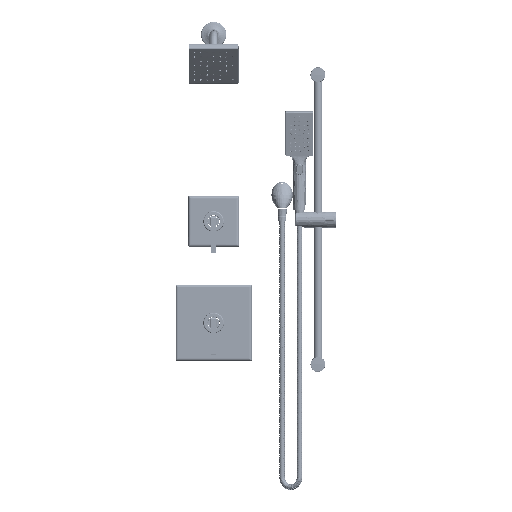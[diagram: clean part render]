
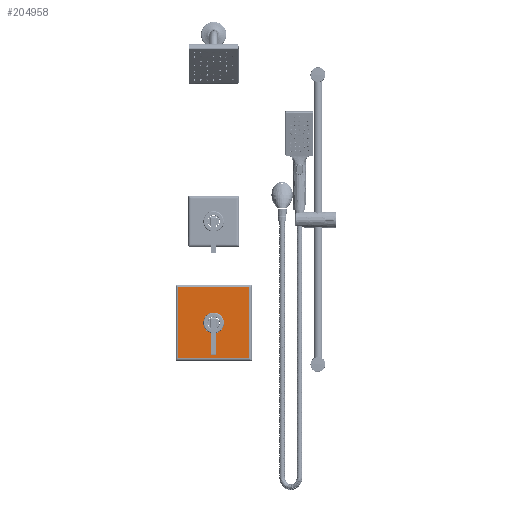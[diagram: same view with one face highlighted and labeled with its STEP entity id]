
A CAD part, top view. The second image highlights one B-rep face of the part: STEP entity #204958.
In plain terms, the highlighted planar face has unit normal (0, 0, 1).
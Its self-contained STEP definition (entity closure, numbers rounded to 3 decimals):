
#23987 = VECTOR ( 'NONE', #81121, 39.37 ) ;
#31094 = EDGE_LOOP ( 'NONE', ( #497696, #196402, #235763, #324273 ) ) ;
#48501 = DIRECTION ( 'NONE',  ( -1., 0., 0. ) ) ;
#64827 = EDGE_CURVE ( 'NONE', #506193, #355654, #360471, .T. ) ;
#79268 = CIRCLE ( 'NONE', #449781, 1.026 ) ;
#81121 = DIRECTION ( 'NONE',  ( 0., 1., 0. ) ) ;
#98995 = LINE ( 'NONE', #362115, #281901 ) ;
#103444 = DIRECTION ( 'NONE',  ( 0., 0., 1. ) ) ;
#109387 = VERTEX_POINT ( 'NONE', #344951 ) ;
#123014 = AXIS2_PLACEMENT_3D ( 'NONE', #420459, #103444, #222025 ) ;
#132583 = CARTESIAN_POINT ( 'NONE',  ( 1.026, 0., 0.375 ) ) ;
#136755 = CARTESIAN_POINT ( 'NONE',  ( 0., 0., 0.375 ) ) ;
#139683 = EDGE_CURVE ( 'NONE', #109387, #337977, #79268, .T. ) ;
#147200 = PLANE ( 'NONE',  #123014 ) ;
#153202 = DIRECTION ( 'NONE',  ( 0., 0., 1. ) ) ;
#160772 = EDGE_LOOP ( 'NONE', ( #418112, #398812 ) ) ;
#195420 = EDGE_CURVE ( 'NONE', #337977, #109387, #196623, .T. ) ;
#196402 = ORIENTED_EDGE ( 'NONE', *, *, #199374, .T. ) ;
#196623 = CIRCLE ( 'NONE', #460030, 1.026 ) ;
#199374 = EDGE_CURVE ( 'NONE', #480828, #506193, #398153, .T. ) ;
#204958 = ADVANCED_FACE ( 'NONE', ( #309529, #340572 ), #147200, .T. ) ;
#209906 = DIRECTION ( 'NONE',  ( 1., 0., 0. ) ) ;
#213625 = VERTEX_POINT ( 'NONE', #335120 ) ;
#214094 = DIRECTION ( 'NONE',  ( 1., 0., 0. ) ) ;
#222025 = DIRECTION ( 'NONE',  ( 1., 0., 0. ) ) ;
#227005 = CARTESIAN_POINT ( 'NONE',  ( 3.5, 3.5, 0.375 ) ) ;
#235763 = ORIENTED_EDGE ( 'NONE', *, *, #64827, .T. ) ;
#281901 = VECTOR ( 'NONE', #209906, 39.37 ) ;
#301608 = DIRECTION ( 'NONE',  ( 0., 0., 1. ) ) ;
#309529 = FACE_BOUND ( 'NONE', #160772, .T. ) ;
#310483 = CARTESIAN_POINT ( 'NONE',  ( 0., 0., 0.375 ) ) ;
#324273 = ORIENTED_EDGE ( 'NONE', *, *, #472721, .T. ) ;
#335120 = CARTESIAN_POINT ( 'NONE',  ( -3.5, -3.5, 0.375 ) ) ;
#337889 = EDGE_CURVE ( 'NONE', #213625, #480828, #98995, .T. ) ;
#337977 = VERTEX_POINT ( 'NONE', #132583 ) ;
#340572 = FACE_OUTER_BOUND ( 'NONE', #31094, .T. ) ;
#342090 = LINE ( 'NONE', #375723, #347779 ) ;
#343686 = CARTESIAN_POINT ( 'NONE',  ( 3.5, -3.5, 0.375 ) ) ;
#344951 = CARTESIAN_POINT ( 'NONE',  ( -1.026, 0., 0.375 ) ) ;
#347779 = VECTOR ( 'NONE', #447956, 39.37 ) ;
#355654 = VERTEX_POINT ( 'NONE', #445659 ) ;
#360471 = LINE ( 'NONE', #479033, #502063 ) ;
#362115 = CARTESIAN_POINT ( 'NONE',  ( -3.75, -3.5, 0.375 ) ) ;
#375723 = CARTESIAN_POINT ( 'NONE',  ( -3.5, -3.75, 0.375 ) ) ;
#398153 = LINE ( 'NONE', #480543, #23987 ) ;
#398812 = ORIENTED_EDGE ( 'NONE', *, *, #139683, .F. ) ;
#418112 = ORIENTED_EDGE ( 'NONE', *, *, #195420, .F. ) ;
#420459 = CARTESIAN_POINT ( 'NONE',  ( -3.75, -3.75, 0.375 ) ) ;
#445659 = CARTESIAN_POINT ( 'NONE',  ( -3.5, 3.5, 0.375 ) ) ;
#447956 = DIRECTION ( 'NONE',  ( 0., -1., 0. ) ) ;
#449781 = AXIS2_PLACEMENT_3D ( 'NONE', #136755, #301608, #214094 ) ;
#460030 = AXIS2_PLACEMENT_3D ( 'NONE', #310483, #153202, #484847 ) ;
#472721 = EDGE_CURVE ( 'NONE', #355654, #213625, #342090, .T. ) ;
#479033 = CARTESIAN_POINT ( 'NONE',  ( -3.75, 3.5, 0.375 ) ) ;
#480543 = CARTESIAN_POINT ( 'NONE',  ( 3.5, -3.75, 0.375 ) ) ;
#480828 = VERTEX_POINT ( 'NONE', #343686 ) ;
#484847 = DIRECTION ( 'NONE',  ( 1., 0., 0. ) ) ;
#497696 = ORIENTED_EDGE ( 'NONE', *, *, #337889, .T. ) ;
#502063 = VECTOR ( 'NONE', #48501, 39.37 ) ;
#506193 = VERTEX_POINT ( 'NONE', #227005 ) ;
